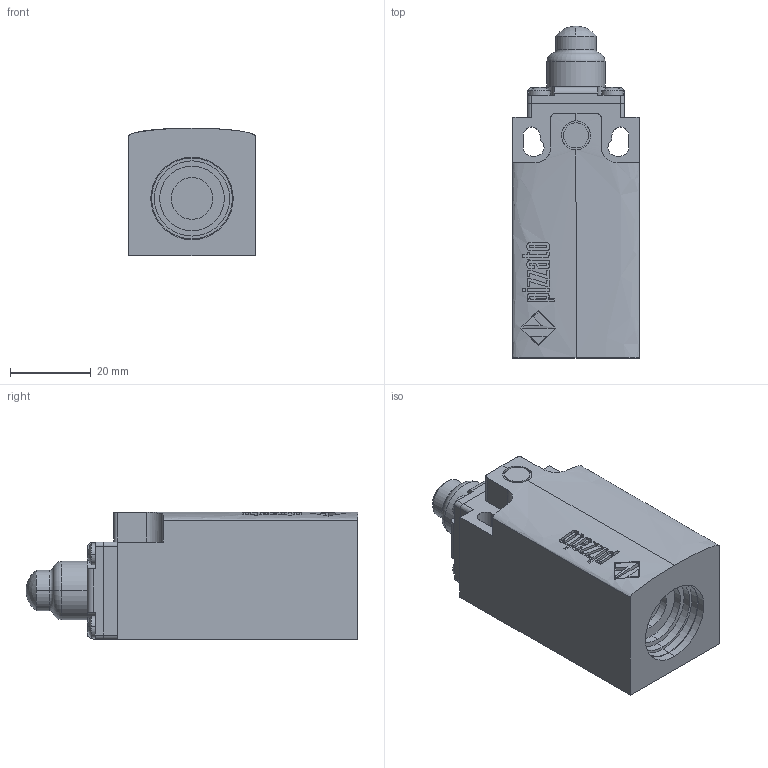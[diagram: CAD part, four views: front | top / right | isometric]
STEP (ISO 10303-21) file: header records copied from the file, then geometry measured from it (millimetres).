
FILE_DESCRIPTION (( 'STEP AP203' ), '1' );
FILE_NAME ('ZF_STEP_FR_x08.STEP', '2024-02-26T08:51:30', ( '' ), ( '' ), 'SwSTEP 2.0', 'SolidWorks 2023', '' );
FILE_SCHEMA (( 'CONFIG_CONTROL_DESIGN' ));
Length unit declared in the file: millimetre
Products named in the file (6): ZF_STEP_FR_x08; Pizzato_Pistoncino_TE08; ZF_STEP_VF_TE08; Pizzato_Supporto_TE08; Pizzato_Custodia_FR_3dweb
Assembly tree (5 placements, depth 3):
  ZF_STEP_FR_x08
    Pizzato_Custodia_FR_3dweb
      Pizzato_Custodia_FR_3dweb
    ZF_STEP_VF_TE08
      Pizzato_Supporto_TE08
      Pizzato_Pistoncino_TE08
Bounding box: 31.2 x 82.1 x 31.6 mm (x, y, z)
Volume: 57558.5 mm3; surface area: 14715.8 mm2
Topology: 3 solids, 3 shells, 414 faces, 1086 edges, 721 vertices
Faces by surface type: plane 232, bspline 114, cylinder 54, sphere 10, torus 4
Entity records: 17222 total; most frequent: CARTESIAN_POINT 7199, ORIENTED_EDGE 2172, DIRECTION 1534, EDGE_CURVE 1086, VERTEX_POINT 721, VECTOR 674, LINE 674, EDGE_LOOP 461
